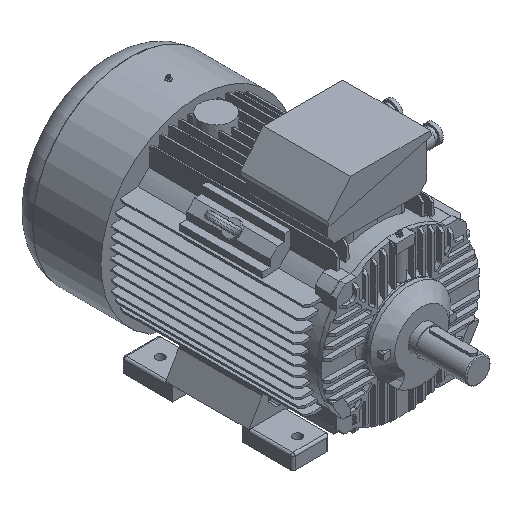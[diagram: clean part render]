
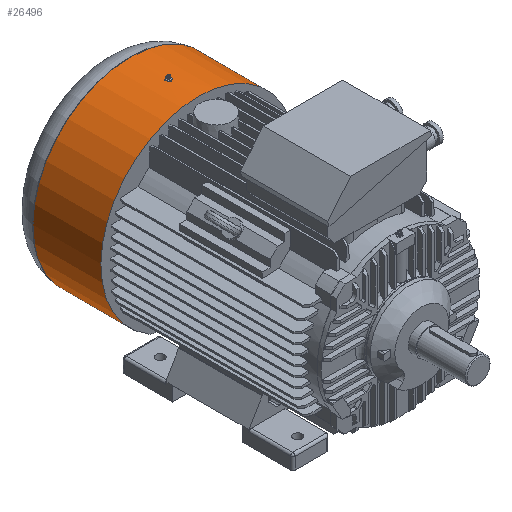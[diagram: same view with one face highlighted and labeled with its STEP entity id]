
A CAD part, isometric view. The second image highlights one B-rep face of the part: STEP entity #26496.
In plain terms, the highlighted cylindrical face has radius 216.016 mm (diameter 432.033 mm), a partial arc.
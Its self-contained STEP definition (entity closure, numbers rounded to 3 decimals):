
#63=ELLIPSE('',#27958,3943.377,216.016);
#64=ELLIPSE('',#27959,242.14,216.016);
#65=ELLIPSE('',#27960,257.981,216.016);
#66=ELLIPSE('',#27961,3943.377,216.016);
#67=ELLIPSE('',#27962,242.14,216.016);
#68=ELLIPSE('',#27963,257.981,216.016);
#645=CIRCLE('',#27956,216.016);
#646=CIRCLE('',#27957,216.016);
#894=CYLINDRICAL_SURFACE('',#27955,216.016);
#5731=ORIENTED_EDGE('',*,*,#9076,.T.);
#5732=ORIENTED_EDGE('',*,*,#9077,.T.);
#5733=ORIENTED_EDGE('',*,*,#9078,.T.);
#5734=ORIENTED_EDGE('',*,*,#9079,.F.);
#5735=ORIENTED_EDGE('',*,*,#9080,.F.);
#5736=ORIENTED_EDGE('',*,*,#9081,.F.);
#5737=ORIENTED_EDGE('',*,*,#9082,.F.);
#5738=ORIENTED_EDGE('',*,*,#9083,.F.);
#5739=ORIENTED_EDGE('',*,*,#9084,.F.);
#5740=ORIENTED_EDGE('',*,*,#9085,.F.);
#9076=EDGE_CURVE('',#11062,#11063,#13243,.F.);
#9077=EDGE_CURVE('',#11063,#11064,#645,.T.);
#9078=EDGE_CURVE('',#11064,#11065,#13244,.T.);
#9079=EDGE_CURVE('',#11062,#11065,#646,.T.);
#9080=EDGE_CURVE('',#11066,#11067,#63,.T.);
#9081=EDGE_CURVE('',#11068,#11066,#64,.T.);
#9082=EDGE_CURVE('',#11069,#11068,#65,.T.);
#9083=EDGE_CURVE('',#11070,#11069,#66,.T.);
#9084=EDGE_CURVE('',#11071,#11070,#67,.T.);
#9085=EDGE_CURVE('',#11067,#11071,#68,.T.);
#11062=VERTEX_POINT('',#39086);
#11063=VERTEX_POINT('',#39087);
#11064=VERTEX_POINT('',#39089);
#11065=VERTEX_POINT('',#39091);
#11066=VERTEX_POINT('',#39094);
#11067=VERTEX_POINT('',#39095);
#11068=VERTEX_POINT('',#39097);
#11069=VERTEX_POINT('',#39099);
#11070=VERTEX_POINT('',#39101);
#11071=VERTEX_POINT('',#39103);
#13243=LINE('',#39085,#15378);
#13244=LINE('',#39090,#15379);
#15378=VECTOR('',#32786,1000.);
#15379=VECTOR('',#32789,1000.);
#16420=EDGE_LOOP('',(#5731,#5732,#5733,#5734));
#16421=EDGE_LOOP('',(#5735,#5736,#5737,#5738,#5739,#5740));
#17538=FACE_BOUND('',#16420,.T.);
#17539=FACE_BOUND('',#16421,.T.);
#26496=ADVANCED_FACE('',(#17538,#17539),#894,.T.);
#27955=AXIS2_PLACEMENT_3D('',#39084,#32784,#32785);
#27956=AXIS2_PLACEMENT_3D('',#39088,#32787,#32788);
#27957=AXIS2_PLACEMENT_3D('',#39092,#32790,#32791);
#27958=AXIS2_PLACEMENT_3D('',#39093,#32792,#32793);
#27959=AXIS2_PLACEMENT_3D('',#39096,#32794,#32795);
#27960=AXIS2_PLACEMENT_3D('',#39098,#32796,#32797);
#27961=AXIS2_PLACEMENT_3D('',#39100,#32798,#32799);
#27962=AXIS2_PLACEMENT_3D('',#39102,#32800,#32801);
#27963=AXIS2_PLACEMENT_3D('',#39104,#32802,#32803);
#32784=DIRECTION('',(0.,-1.,0.));
#32785=DIRECTION('',(1.,0.,0.));
#32786=DIRECTION('',(0.,-1.,0.));
#32787=DIRECTION('',(0.,-1.,0.));
#32788=DIRECTION('',(1.,0.,0.));
#32789=DIRECTION('',(0.,-1.,0.));
#32790=DIRECTION('',(0.,-1.,0.));
#32791=DIRECTION('',(1.,0.,0.));
#32792=DIRECTION('',(-0.998,0.055,0.));
#32793=DIRECTION('',(-0.055,-0.998,0.));
#32794=DIRECTION('',(-0.452,0.892,0.));
#32795=DIRECTION('',(-0.892,-0.452,0.));
#32796=DIRECTION('',(0.547,0.837,0.));
#32797=DIRECTION('',(0.837,-0.547,0.));
#32798=DIRECTION('',(0.998,-0.055,0.));
#32799=DIRECTION('',(-0.055,-0.998,0.));
#32800=DIRECTION('',(0.452,-0.892,0.));
#32801=DIRECTION('',(-0.892,-0.452,0.));
#32802=DIRECTION('',(-0.547,-0.837,0.));
#32803=DIRECTION('',(0.837,-0.547,0.));
#39084=CARTESIAN_POINT('',(0.,635.,0.));
#39085=CARTESIAN_POINT('',(108.389,635.,-186.855));
#39086=CARTESIAN_POINT('',(108.389,440.,-186.855));
#39087=CARTESIAN_POINT('',(108.389,592.06,-186.855));
#39088=CARTESIAN_POINT('',(0.,592.06,0.));
#39089=CARTESIAN_POINT('',(-110.181,592.06,-185.804));
#39090=CARTESIAN_POINT('',(-110.181,635.,-185.804));
#39091=CARTESIAN_POINT('',(-110.181,440.,-185.804));
#39092=CARTESIAN_POINT('',(0.,440.,0.));
#39093=CARTESIAN_POINT('',(0.,405.166,0.));
#39094=CARTESIAN_POINT('',(5.318,502.096,215.951));
#39095=CARTESIAN_POINT('',(5.666,508.438,215.942));
#39096=CARTESIAN_POINT('',(0.,499.403,0.));
#39097=CARTESIAN_POINT('',(-0.348,499.227,216.016));
#39098=CARTESIAN_POINT('',(0.,499.,0.));
#39099=CARTESIAN_POINT('',(-5.666,502.699,215.942));
#39100=CARTESIAN_POINT('',(0.,605.971,0.));
#39101=CARTESIAN_POINT('',(-5.318,509.04,215.951));
#39102=CARTESIAN_POINT('',(0.,511.733,0.));
#39103=CARTESIAN_POINT('',(0.348,511.91,216.016));
#39104=CARTESIAN_POINT('',(0.,512.137,0.));
